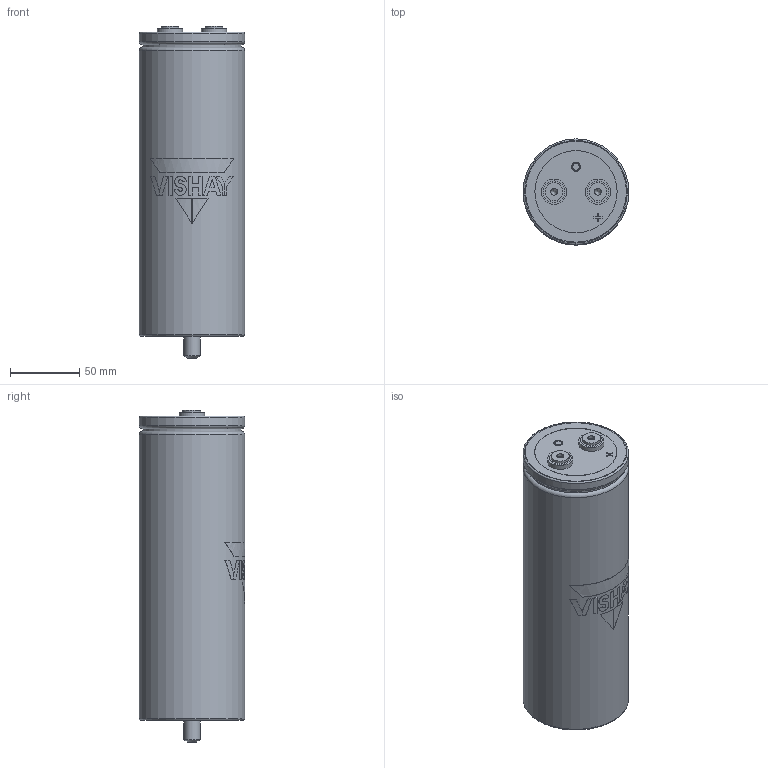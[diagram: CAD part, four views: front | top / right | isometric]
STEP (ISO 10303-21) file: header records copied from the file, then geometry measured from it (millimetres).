
FILE_DESCRIPTION(('FreeCAD Model'),'2;1');
FILE_NAME('C:/Users/tvandesteeg/Documents/Documents/FreeCAD/Stepfiles/ST capacitors/STB_LP_M6_76x220.step','2020-07-02T18:03:26',('Author'),(''), 'Open CASCADE STEP processor 7.3','FreeCAD','Unknown');
FILE_SCHEMA(('AUTOMOTIVE_DESIGN { 1 0 10303 214 1 1 1 1 }'));
Length unit declared in the file: millimetre
Products named in the file (7): VentBody; TerminalBody_(Mirror_#2); TerminalBody; STBBottomBody; Disc; LogoPrint; CanBody
Bounding box: 76.4 x 76.5 x 240 mm (x, y, z)
Volume: 1005020.4 mm3; surface area: 89124.7 mm2
Topology: 17 solids, 17 shells, 152 faces, 318 edges, 209 vertices
Faces by surface type: plane 94, cylinder 49, torus 5, cone 4
Full cylindrical faces by diameter (mm): 5 x4, 11.966 x1, 13 x2, 15.65 x6, 18.3 x2, 59.422 x3, 71.4 x1, 72 x2, 76.4 x2
Entity records: 10788 total; most frequent: CARTESIAN_POINT 3378, DIRECTION 1228, ORIENTED_EDGE 632, PCURVE 632, DEFINITIONAL_REPRESENTATION 632, LINE 542, VECTOR 542, EDGE_CURVE 316
